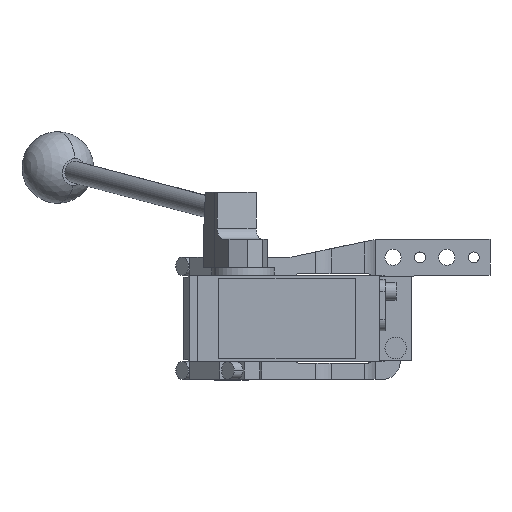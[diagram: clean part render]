
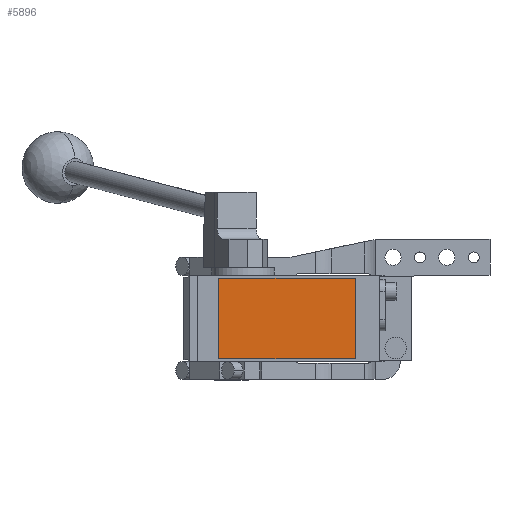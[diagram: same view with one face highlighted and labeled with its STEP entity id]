
A CAD part, front view. The second image highlights one B-rep face of the part: STEP entity #5896.
In plain terms, the highlighted planar face has unit normal (0, -1, 0).
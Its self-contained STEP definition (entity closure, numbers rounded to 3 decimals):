
#886 = DIRECTION ( 'NONE',  ( 0., 0., 1. ) ) ;
#1072 = EDGE_LOOP ( 'NONE', ( #10241, #5071, #3661, #4415 ) ) ;
#1613 = VECTOR ( 'NONE', #9067, 1000. ) ;
#1716 = LINE ( 'NONE', #9989, #2362 ) ;
#1883 = LINE ( 'NONE', #7608, #6466 ) ;
#2362 = VECTOR ( 'NONE', #10777, 1000. ) ;
#2745 = EDGE_CURVE ( 'NONE', #6908, #6377, #4459, .T. ) ;
#3389 = DIRECTION ( 'NONE',  ( 0., -1., 0. ) ) ;
#3547 = VECTOR ( 'NONE', #886, 1000. ) ;
#3661 = ORIENTED_EDGE ( 'NONE', *, *, #6358, .T. ) ;
#4213 = CARTESIAN_POINT ( 'NONE',  ( 0., -280.5, 0. ) ) ;
#4415 = ORIENTED_EDGE ( 'NONE', *, *, #8669, .T. ) ;
#4459 = LINE ( 'NONE', #12302, #1613 ) ;
#5071 = ORIENTED_EDGE ( 'NONE', *, *, #2745, .T. ) ;
#5135 = CARTESIAN_POINT ( 'NONE',  ( -7., -280.5, 22.5 ) ) ;
#5391 = LINE ( 'NONE', #10161, #3547 ) ;
#5661 = VERTEX_POINT ( 'NONE', #13751 ) ;
#5896 = ADVANCED_FACE ( 'NONE', ( #9723 ), #14709, .T. ) ;
#6358 = EDGE_CURVE ( 'NONE', #6377, #5661, #5391, .T. ) ;
#6377 = VERTEX_POINT ( 'NONE', #11305 ) ;
#6466 = VECTOR ( 'NONE', #10871, 1000. ) ;
#6908 = VERTEX_POINT ( 'NONE', #9369 ) ;
#7355 = AXIS2_PLACEMENT_3D ( 'NONE', #4213, #3389, #13732 ) ;
#7608 = CARTESIAN_POINT ( 'NONE',  ( -7., -280.5, 22.5 ) ) ;
#8669 = EDGE_CURVE ( 'NONE', #5661, #11226, #1883, .T. ) ;
#9067 = DIRECTION ( 'NONE',  ( 1., 0., 0. ) ) ;
#9369 = CARTESIAN_POINT ( 'NONE',  ( -7., -280.5, -22.5 ) ) ;
#9723 = FACE_OUTER_BOUND ( 'NONE', #1072, .T. ) ;
#9989 = CARTESIAN_POINT ( 'NONE',  ( -7., -280.5, 22.5 ) ) ;
#10161 = CARTESIAN_POINT ( 'NONE',  ( 69., -280.5, 22.5 ) ) ;
#10241 = ORIENTED_EDGE ( 'NONE', *, *, #14191, .T. ) ;
#10777 = DIRECTION ( 'NONE',  ( 0., 0., -1. ) ) ;
#10871 = DIRECTION ( 'NONE',  ( -1., 0., 0. ) ) ;
#11226 = VERTEX_POINT ( 'NONE', #5135 ) ;
#11305 = CARTESIAN_POINT ( 'NONE',  ( 69., -280.5, -22.5 ) ) ;
#12302 = CARTESIAN_POINT ( 'NONE',  ( -7., -280.5, -22.5 ) ) ;
#13732 = DIRECTION ( 'NONE',  ( 0., 0., -1. ) ) ;
#13751 = CARTESIAN_POINT ( 'NONE',  ( 69., -280.5, 22.5 ) ) ;
#14191 = EDGE_CURVE ( 'NONE', #11226, #6908, #1716, .T. ) ;
#14709 = PLANE ( 'NONE',  #7355 ) ;
